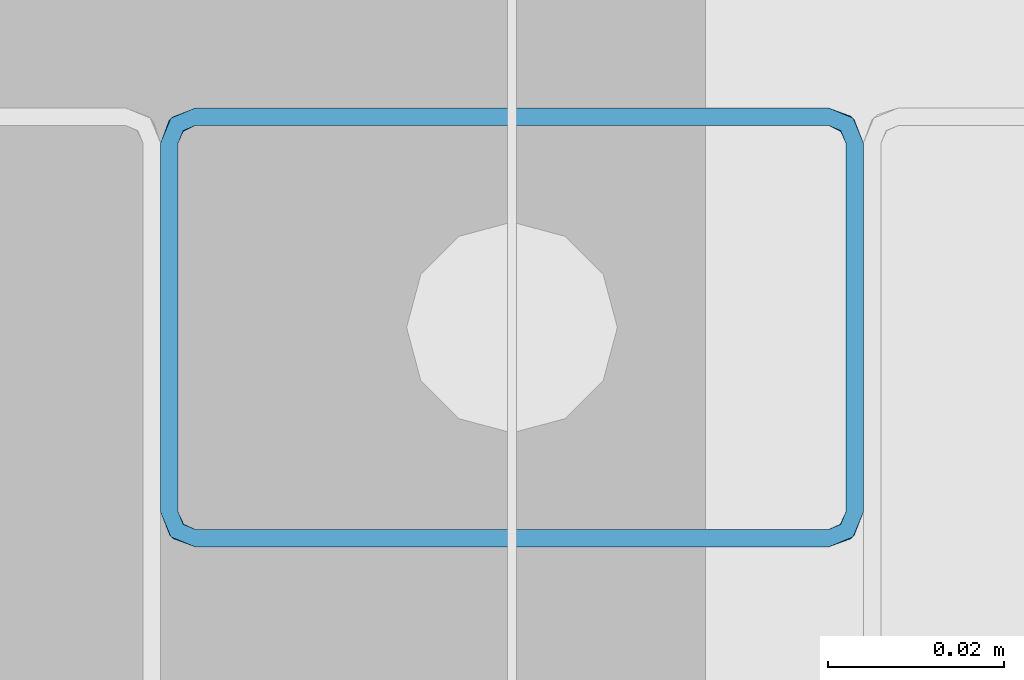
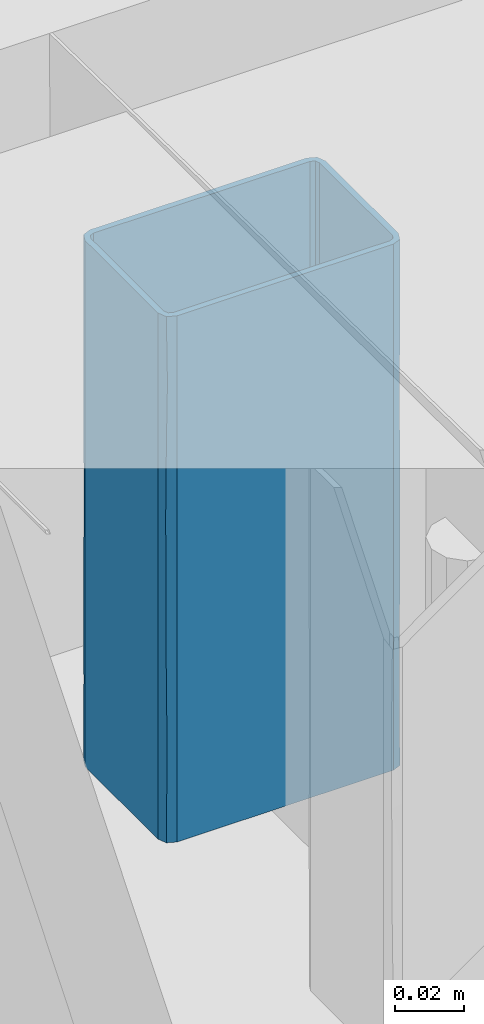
# One storey, part 135 of 186: 1 beam.
"""IFC4X3_ADD2 building model written with IfcOpenShell, lengths in millimetres."""

from ifc_helpers import new_model, si_unit, direction, frame, origin_with_axes, place, context, subcontext, project, spatial, polygons, element, save


model = new_model("IFC4X3_ADD2")

# Units and contexts
model_context = context("Model", 3, precision=1e-05, world=origin_with_axes(), true_north=direction((0.0, 1.0)))
body_context = subcontext(model_context, "Body", "Model", "MODEL_VIEW")
ifc_project = project(units=[si_unit("LENGTHUNIT", "METRE", prefix="MILLI"), si_unit("AREAUNIT", "SQUARE_METRE"), si_unit("VOLUMEUNIT", "CUBIC_METRE"), si_unit("PLANEANGLEUNIT", "RADIAN"), si_unit("TIMEUNIT", "SECOND"), si_unit("MASSUNIT", "GRAM")], contexts=[model_context])

# Site, building, storey
site_placement = place(None, origin_with_axes())
site = spatial("IfcSite", under=ifc_project, at=site_placement, Name="Site", CompositionType="ELEMENT")
building_placement = place(site_placement, origin_with_axes())
building = spatial("IfcBuilding", under=site, at=building_placement, Name="IFC Building Story")
storey_placement = place(building_placement, frame((0.0, 0.0, 4370.0), z_axis=(0.0, 0.0, 1.0), x_axis=(1.0, 0.0, 0.0)))
storey = spatial("IfcBuildingStorey", under=building, at=storey_placement, Name="ETAGE 10 (1)", Elevation=4370.0)

# Beam
beam_placement = place(storey_placement, frame((0.0, 0.0, -4370.0), z_axis=(0.0, 0.0, 1.0), x_axis=(1.0, 0.0, 0.0)))
element("IfcBeam", 1, at=beam_placement, inside=storey, Name="PS9", ObjectType="K50*80*2", context=body_context, shape_type="Tessellation", body=[
    polygons([(33389.18800000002, -14270.99999999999, 7549.598981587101), (33391.18800000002, -14270.99999999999, 7549.598981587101), (33388.60221356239, -14272.41421356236, 7549.598981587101), (33389.18800000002, -14228.99999999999, 7549.598981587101), (33391.18800000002, -14228.99999999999, 7549.598981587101), (33388.60221356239, -14227.58578643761, 7549.598981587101), (33390.01642712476, -14226.17157287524, 7549.598981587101), (33387.18800000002, -14224.99999999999, 7549.598981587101), (33387.18800000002, -14226.99999999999, 7549.598981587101), (33315.18800000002, -14224.99999999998, 7549.598981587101), (33315.18800000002, -14226.99999999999, 7549.598981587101), (33313.77378643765, -14227.58578643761, 7549.598981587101), (33312.35957287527, -14226.17157287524, 7549.598981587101), (33311.18800000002, -14228.99999999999, 7549.598981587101), (33313.18800000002, -14228.99999999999, 7549.598981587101), (33311.18800000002, -14270.99999999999, 7549.598981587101), (33313.18800000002, -14270.99999999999, 7549.598981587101), (33313.77378643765, -14272.41421356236, 7549.598981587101), (33312.35957287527, -14273.82842712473, 7549.598981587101), (33315.18800000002, -14274.99999999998, 7549.598981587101), (33315.18800000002, -14272.99999999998, 7549.598981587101), (33387.18800000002, -14272.99999999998, 7549.598981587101), (33387.18800000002, -14274.99999999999, 7549.598981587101), (33390.01642712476, -14273.82842712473, 7549.598981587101), (33313.18800000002, -14270.99999999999, 7734.598981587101), (33311.18800000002, -14270.99999999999, 7734.598981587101), (33313.77378643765, -14272.41421356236, 7734.598981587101), (33313.18800000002, -14228.99999999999, 7734.598981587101), (33311.18800000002, -14228.99999999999, 7734.598981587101), (33313.77378643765, -14227.58578643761, 7734.598981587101), (33312.35957287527, -14226.17157287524, 7734.598981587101), (33315.18800000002, -14224.99999999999, 7734.598981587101), (33315.18800000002, -14226.99999999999, 7734.598981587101), (33387.18800000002, -14224.99999999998, 7734.598981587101), (33387.18800000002, -14226.99999999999, 7734.598981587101), (33388.60221356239, -14227.58578643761, 7734.598981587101), (33390.01642712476, -14226.17157287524, 7734.598981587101), (33391.18800000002, -14228.99999999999, 7734.598981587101), (33389.18800000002, -14228.99999999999, 7734.598981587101), (33391.18800000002, -14270.99999999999, 7734.598981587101), (33389.18800000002, -14270.99999999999, 7734.598981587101), (33388.60221356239, -14272.41421356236, 7734.598981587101), (33390.01642712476, -14273.82842712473, 7734.598981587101), (33387.18800000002, -14274.99999999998, 7734.598981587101), (33387.18800000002, -14272.99999999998, 7734.598981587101), (33315.18800000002, -14272.99999999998, 7734.598981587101), (33315.18800000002, -14274.99999999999, 7734.598981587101), (33312.35957287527, -14273.82842712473, 7734.598981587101), (33315.18800000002, -14224.99999999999, 7567.057500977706), (33315.18800000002, -14224.99999999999, 7595.848981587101), (33315.18800000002, -14224.99999999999, 7618.973979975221), (33315.18800000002, -14224.99999999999, 7642.098981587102), (33315.18800000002, -14224.99999999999, 7665.22398319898), (33315.18800000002, -14224.99999999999, 7688.348981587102), (33315.18800000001, -14224.99999999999, 7717.140462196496), (33387.18800000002, -14224.99999999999, 7699.681936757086), (33387.18800000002, -14224.99999999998, 7677.016027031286), (33387.18800000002, -14224.99999999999, 7648.224549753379), (33387.18800000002, -14224.99999999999, 7619.433072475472), (33387.18800000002, -14224.99999999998, 7584.516026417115), (33389.87013952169, -14226.03248798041, 7688.348979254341), (33391.18800000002, -14228.99999999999, 7717.140460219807), (33391.18800000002, -14228.99999999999, 7567.057505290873), (33390.13632995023, -14226.29678885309, 7578.945875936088), (33390.12976139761, -14226.28964211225, 7653.661479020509), (33391.18800000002, -14228.99999999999, 7665.223981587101), (33390.12985629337, -14226.28974511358, 7628.466971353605), (33389.76734546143, -14225.94271738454, 7711.526446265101), (33391.18800000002, -14228.99999999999, 7688.348981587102), (33389.75682180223, -14225.93386977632, 7602.891747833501), (33391.18800000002, -14228.99999999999, 7642.098981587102), (33391.18800000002, -14228.99999999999, 7618.9739815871), (33391.18800000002, -14228.99999999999, 7595.848981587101), (33391.18800000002, -14270.99999999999, 7717.140458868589), (33391.18800000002, -14270.99999999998, 7688.348981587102), (33391.18800000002, -14270.99999999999, 7665.223981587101), (33391.18800000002, -14270.99999999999, 7642.098981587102), (33391.18800000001, -14270.99999999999, 7618.9739815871), (33391.18800000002, -14270.99999999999, 7595.848981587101), (33391.18800000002, -14270.99999999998, 7567.057504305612), (33390.13633021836, -14273.70321085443, 7705.252077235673), (33389.76734551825, -14274.05728256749, 7572.671514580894), (33389.87013952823, -14273.96751201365, 7595.848979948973), (33387.18800000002, -14274.99999999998, 7584.516027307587), (33387.18800000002, -14274.99999999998, 7607.181936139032), (33390.12976137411, -14273.71035791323, 7630.536479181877), (33387.18800000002, -14274.99999999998, 7699.681935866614), (33389.75682193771, -14274.06613011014, 7681.306206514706), (33390.12985619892, -14273.71025498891, 7655.73098495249), (33387.18800000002, -14274.99999999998, 7664.764890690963), (33387.18800000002, -14274.99999999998, 7635.973413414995), (33315.18800000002, -14274.99999999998, 7699.681936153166), (33315.18800000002, -14274.99999999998, 7670.890458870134), (33315.18800000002, -14274.99999999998, 7642.098981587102), (33315.18800000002, -14274.99999999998, 7618.973981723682), (33315.18800000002, -14274.99999999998, 7595.848981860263), (33315.18800000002, -14274.99999999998, 7567.057504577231), (33311.18800000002, -14270.99999999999, 7584.516027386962), (33311.18800000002, -14270.99999999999, 7619.433073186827), (33312.34756484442, -14273.81636789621, 7607.411479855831), (33311.18800000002, -14270.99999999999, 7699.681935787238), (33312.35957299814, -14273.8284272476, 7688.348976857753), (33312.59986179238, -14274.04984272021, 7711.473977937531), (33312.5361167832, -14273.99458100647, 7583.376471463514), (33312.22049317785, -14273.68214527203, 7663.470051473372), (33312.2957334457, -14273.76311313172, 7640.418718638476), (33311.18800000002, -14270.99999999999, 7677.01602659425), (33311.18800000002, -14270.99999999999, 7648.224549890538), (33311.18800000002, -14228.99999999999, 7699.681936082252), (33311.18800000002, -14228.99999999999, 7677.016027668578), (33311.18800000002, -14228.99999999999, 7648.224550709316), (33311.18800000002, -14228.99999999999, 7619.433072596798), (33311.18800000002, -14228.99999999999, 7584.516027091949), (33312.22048794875, -14226.31786051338, 7688.348978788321), (33312.48478884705, -14226.05167005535, 7578.945875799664), (33312.47764210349, -14226.05823861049, 7653.661478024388), (33312.47774509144, -14226.05814372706, 7628.466970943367), (33312.13071738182, -14226.42065454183, 7711.526445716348), (33312.12186975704, -14226.43117822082, 7602.891747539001), (33313.82800168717, -14227.53357421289, 7625.929039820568), (33313.18800000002, -14228.99999999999, 7623.66922028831), (33313.8731783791, -14227.49293526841, 7613.583468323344), (33313.60929313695, -14227.77212189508, 7664.531819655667), (33313.71072133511, -14227.65179832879, 7653.749277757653), (33315.18800000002, -14226.99999999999, 7665.223981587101), (33313.82800170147, -14227.53357419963, 7693.738959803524), (33313.18800000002, -14228.99999999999, 7702.259100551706), (33313.18800000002, -14228.99999999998, 7691.479140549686), (33313.18800000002, -14228.99999999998, 7680.699180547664), (33313.70109668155, -14227.6624206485, 7641.817961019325), (33315.18800000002, -14226.99999999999, 7642.098981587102), (33315.18800000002, -14226.99999999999, 7722.253941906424), (33313.7737864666, -14227.58578640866, 7717.646499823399), (33315.18800000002, -14226.99999999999, 7709.90890222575), (33313.78242951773, -14227.57719586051, 7705.830626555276), (33313.18800000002, -14228.99999999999, 7722.25394171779), (33313.18800000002, -14228.99999999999, 7561.94402094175), (33313.77378641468, -14227.58578646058, 7568.11654096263), (33315.18800000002, -14226.99999999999, 7561.944021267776), (33313.18800000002, -14228.99999999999, 7636.014260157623), (33313.18800000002, -14228.99999999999, 7586.634100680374), (33313.72736652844, -14227.63378264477, 7580.461580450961), (33313.77378639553, -14227.58578647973, 7592.806619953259), (33313.71533825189, -14227.64675671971, 7675.309197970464), (33315.18800000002, -14226.99999999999, 7688.348981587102), (33313.18800000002, -14228.99999999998, 7598.979140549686), (33313.18800000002, -14228.99999999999, 7574.289060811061), (33315.18800000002, -14226.99999999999, 7586.63410062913), (33315.18800000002, -14226.99999999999, 7574.289060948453), (33313.18800000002, -14228.99999999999, 7713.039061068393), (33315.18800000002, -14226.99999999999, 7699.128941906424), (33313.18800000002, -14228.99999999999, 7659.139259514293), (33313.18800000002, -14228.99999999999, 7648.359299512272), (33313.18800000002, -14228.99999999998, 7669.919220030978), (33315.18800000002, -14226.99999999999, 7653.661481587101), (33315.18800000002, -14226.99999999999, 7631.319021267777), (33315.18800000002, -14226.99999999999, 7676.786481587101), (33315.18800000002, -14226.99999999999, 7620.539060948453), (33313.18800000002, -14228.99999999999, 7611.324180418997), (33313.63244519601, -14227.74292034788, 7603.287688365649), (33315.18800000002, -14226.99999999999, 7609.759100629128), (33315.18800000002, -14226.99999999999, 7598.979140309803), (33313.18800000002, -14270.99999999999, 7722.253941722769), (33313.18800000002, -14270.99999999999, 7709.908901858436), (33313.18800000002, -14270.99999999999, 7699.128941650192), (33313.18800000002, -14270.99999999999, 7688.348981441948), (33313.18800000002, -14270.99999999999, 7676.786481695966), (33313.18800000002, -14270.99999999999, 7665.223981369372), (33313.18800000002, -14270.99999999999, 7653.661481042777), (33313.18800000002, -14270.99999999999, 7642.098981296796), (33313.18800000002, -14270.99999999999, 7630.536481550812), (33313.18800000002, -14270.99999999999, 7618.973981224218), (33313.18800000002, -14270.99999999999, 7607.411480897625), (33313.18800000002, -14270.99999999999, 7595.848981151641), (33313.18800000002, -14270.99999999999, 7585.069020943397), (33313.18800000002, -14270.99999999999, 7574.289060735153), (33313.18800000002, -14270.99999999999, 7561.944021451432), (33313.70396062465, -14272.3407561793, 7659.44273014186), (33313.66385584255, -14272.29498439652, 7647.880618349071), (33313.87324681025, -14272.50712443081, 7621.237918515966), (33313.70196043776, -14272.33853891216, 7636.317730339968), (33315.18800000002, -14272.99999999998, 7625.058702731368), (33315.18800000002, -14272.99999999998, 7561.944020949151), (33313.77378644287, -14272.41421356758, 7566.551461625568), (33315.18800000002, -14272.99999999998, 7571.158902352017), (33313.72157418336, -14272.35999828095, 7579.67904054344), (33313.699419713, -14272.33571281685, 7694.823087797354), (33313.71634898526, -14272.35434238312, 7682.567730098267), (33315.18800000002, -14272.99999999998, 7648.18370400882), (33313.73351716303, -14272.37276351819, 7591.347273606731), (33315.18800000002, -14272.99999999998, 7581.938862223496), (33315.18800000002, -14272.99999999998, 7722.25394222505), (33315.18800000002, -14272.99999999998, 7685.218823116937), (33313.77378642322, -14272.41421354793, 7716.08142123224), (33315.18800000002, -14272.99999999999, 7709.908901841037), (33315.18800000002, -14272.99999999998, 7672.873782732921), (33313.66429696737, -14272.29550340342, 7671.008022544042), (33315.18800000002, -14272.99999999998, 7660.528743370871), (33313.83475669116, -14272.47266172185, 7608.888762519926), (33315.18800000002, -14272.99999999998, 7614.278742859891), (33315.18800000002, -14272.99999999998, 7603.498782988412), (33315.18800000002, -14272.99999999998, 7592.718822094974), (33315.18800000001, -14272.99999999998, 7697.563862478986), (33313.91815055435, -14272.54514801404, 7705.388109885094), (33315.18800000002, -14272.99999999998, 7635.838663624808), (33387.18800000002, -14272.99999999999, 7722.253942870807), (33387.18800000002, -14272.99999999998, 7711.473981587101), (33387.18800000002, -14272.99999999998, 7699.9114815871), (33387.18800000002, -14272.99999999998, 7688.348981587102), (33387.18800000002, -14272.99999999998, 7676.786481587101), (33387.18800000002, -14272.99999999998, 7665.223981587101), (33387.18800000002, -14272.99999999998, 7653.661481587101), (33387.18800000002, -14272.99999999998, 7642.098981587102), (33387.18800000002, -14272.99999999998, 7630.536481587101), (33387.18800000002, -14272.99999999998, 7618.9739815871), (33387.18800000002, -14272.99999999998, 7607.411481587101), (33387.18800000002, -14272.99999999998, 7595.848981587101), (33387.18800000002, -14272.99999999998, 7585.069020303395), (33387.18800000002, -14272.99999999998, 7574.289060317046), (33387.18800000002, -14272.99999999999, 7561.944020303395), (33388.52875615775, -14272.48403939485, 7659.442730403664), (33388.48298437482, -14272.52414417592, 7647.880618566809), (33388.69512441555, -14272.31475320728, 7621.237918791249), (33388.52653889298, -14272.48603957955, 7636.317730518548), (33389.18800000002, -14270.99999999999, 7625.058703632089), (33388.47419377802, -14272.53156964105, 7705.518256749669), (33389.18800000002, -14270.99999999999, 7561.944022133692), (33388.60221356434, -14272.41421356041, 7566.551461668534), (33389.18800000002, -14270.99999999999, 7571.158902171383), (33389.18800000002, -14270.99999999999, 7722.253942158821), (33388.5479982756, -14272.46642582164, 7579.679040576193), (33389.18800000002, -14270.99999999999, 7685.218822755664), (33388.55331837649, -14272.46147382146, 7694.130230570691), (33389.18800000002, -14270.99999999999, 7697.563862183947), (33388.67361845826, -14272.33900627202, 7679.046301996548), (33388.56076351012, -14272.45448284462, 7591.347273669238), (33389.18800000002, -14270.99999999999, 7581.938862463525), (33389.18800000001, -14270.99999999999, 7709.908902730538), (33388.60221354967, -14272.41421357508, 7716.86396120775), (33389.18800000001, -14270.99999999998, 7648.183703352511), (33389.18800000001, -14270.99999999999, 7672.873783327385), (33389.18800000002, -14270.99999999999, 7660.528742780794), (33388.66066170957, -14272.35324332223, 7608.888762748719), (33389.18800000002, -14270.99999999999, 7614.278743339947), (33389.18800000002, -14270.99999999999, 7603.498783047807), (33389.18800000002, -14270.99999999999, 7592.718822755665), (33389.18800000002, -14270.99999999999, 7635.838663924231), (33389.18800000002, -14228.99999999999, 7722.253941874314), (33389.18800000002, -14228.99999999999, 7709.908902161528), (33389.18800000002, -14228.99999999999, 7697.563862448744), (33389.18800000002, -14228.99999999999, 7685.218822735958), (33389.18800000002, -14228.99999999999, 7672.873783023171), (33389.18800000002, -14228.99999999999, 7660.528743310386), (33389.18800000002, -14228.99999999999, 7648.183703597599), (33389.18800000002, -14228.99999999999, 7635.838663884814), (33389.18800000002, -14228.99999999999, 7625.0587035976), (33389.18800000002, -14228.99999999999, 7614.278743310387), (33389.18800000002, -14228.99999999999, 7603.498783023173), (33389.18800000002, -14228.99999999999, 7592.718822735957), (33389.18800000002, -14228.99999999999, 7581.938862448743), (33389.18800000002, -14228.99999999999, 7571.158902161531), (33389.18800000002, -14228.99999999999, 7561.944021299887), (33388.76670674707, -14227.77212174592, 7619.666140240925), (33388.66527859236, -14227.65179824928, 7630.448682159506), (33387.18800000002, -14226.99999999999, 7618.973981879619), (33388.54799824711, -14227.5335741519, 7658.268919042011), (33388.50282159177, -14227.49293524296, 7670.614489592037), (33388.60221360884, -14227.58578648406, 7716.081418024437), (33388.60221362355, -14227.58578649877, 7702.876051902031), (33387.18800000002, -14226.99999999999, 7709.908902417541), (33387.18800000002, -14226.99999999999, 7642.098981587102), (33388.67490326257, -14227.66242058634, 7642.379998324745), (33388.54799825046, -14227.53357415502, 7590.459000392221), (33388.59357048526, -14227.57719586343, 7578.367333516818), (33387.18800000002, -14226.99999999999, 7574.289060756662), (33388.60221356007, -14227.58578643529, 7566.551461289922), (33388.6606616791, -14227.64675664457, 7608.888761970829), (33387.18800000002, -14226.99999999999, 7595.848981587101), (33387.18800000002, -14226.99999999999, 7697.563862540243), (33388.60221352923, -14227.58578640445, 7690.510053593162), (33387.18800000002, -14226.99999999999, 7722.253941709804), (33387.18800000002, -14226.99999999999, 7561.944021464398), (33387.18800000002, -14226.99999999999, 7585.069021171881), (33387.18800000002, -14226.99999999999, 7630.536482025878), (33387.18800000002, -14226.99999999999, 7652.878942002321), (33387.18800000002, -14226.99999999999, 7607.41148173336), (33387.18800000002, -14226.99999999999, 7663.658901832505), (33387.18800000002, -14226.99999999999, 7674.438862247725), (33387.18800000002, -14226.99999999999, 7685.218822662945)], [[[1, 2, 3]], [[2, 1, 4]], [[4, 5, 2]], [[6, 5, 4]], [[7, 5, 6]], [[6, 8, 7]], [[6, 9, 8]], [[8, 9, 10]], [[11, 10, 9]], [[11, 12, 10]], [[10, 12, 13]], [[14, 13, 12]], [[14, 12, 15]], [[14, 15, 16]], [[17, 16, 15]], [[18, 16, 17]], [[16, 18, 19]], [[18, 20, 19]], [[21, 20, 18]], [[20, 21, 22]], [[3, 23, 22]], [[22, 23, 20]], [[3, 2, 24]], [[23, 3, 24]], [[25, 26, 27]], [[26, 25, 28]], [[28, 29, 26]], [[30, 29, 28]], [[31, 29, 30]], [[30, 32, 31]], [[30, 33, 32]], [[32, 33, 34]], [[35, 34, 33]], [[35, 36, 34]], [[34, 36, 37]], [[38, 37, 36]], [[38, 36, 39]], [[38, 39, 40]], [[41, 40, 39]], [[42, 40, 41]], [[40, 42, 43]], [[42, 44, 43]], [[45, 44, 42]], [[44, 45, 46]], [[27, 47, 46]], [[46, 47, 44]], [[27, 26, 48]], [[47, 27, 48]], [[55, 32, 34]], [[56, 57, 54]], [[54, 55, 34]], [[54, 34, 56]], [[57, 53, 54]], [[57, 58, 52]], [[57, 52, 53]], [[58, 59, 51]], [[58, 51, 52]], [[59, 60, 50]], [[59, 50, 51]], [[60, 8, 49]], [[60, 49, 50]], [[8, 10, 49]], [[61, 57, 56]], [[37, 38, 62]], [[63, 5, 7]], [[7, 8, 64]], [[61, 65, 57]], [[66, 65, 61]], [[67, 59, 58]], [[61, 68, 69]], [[61, 56, 68]], [[8, 60, 64]], [[67, 70, 59]], [[34, 37, 68]], [[64, 60, 70]], [[68, 62, 69]], [[58, 65, 67]], [[65, 66, 71]], [[61, 69, 66]], [[65, 71, 67]], [[57, 65, 58]], [[70, 72, 73]], [[72, 70, 67]], [[64, 73, 63]], [[60, 59, 70]], [[34, 68, 56]], [[62, 68, 37]], [[67, 71, 72]], [[73, 64, 70]], [[7, 64, 63]], [[62, 38, 40]], [[62, 40, 74]], [[74, 75, 69]], [[74, 69, 62]], [[75, 76, 66]], [[75, 66, 69]], [[76, 77, 71]], [[76, 71, 66]], [[77, 78, 72]], [[77, 72, 71]], [[78, 79, 73]], [[78, 73, 72]], [[79, 80, 63]], [[79, 63, 73]], [[80, 2, 5]], [[80, 5, 63]], [[43, 44, 81]], [[82, 79, 83]], [[84, 83, 85]], [[82, 80, 79]], [[83, 86, 85]], [[24, 2, 80]], [[74, 40, 43]], [[78, 86, 83]], [[81, 44, 87]], [[87, 88, 81]], [[89, 90, 91]], [[89, 88, 90]], [[23, 24, 82]], [[83, 84, 82]], [[91, 86, 89]], [[86, 78, 77]], [[83, 79, 78]], [[86, 77, 89]], [[85, 86, 91]], [[88, 76, 75]], [[76, 88, 89]], [[81, 75, 74]], [[87, 90, 88]], [[23, 82, 84]], [[80, 82, 24]], [[89, 77, 76]], [[75, 81, 88]], [[43, 81, 74]], [[87, 44, 47]], [[87, 47, 92]], [[92, 93, 90]], [[92, 90, 87]], [[93, 94, 91]], [[93, 91, 90]], [[95, 96, 85]], [[85, 91, 94]], [[85, 94, 95]], [[96, 84, 85]], [[97, 20, 23]], [[97, 23, 84]], [[84, 96, 97]], [[98, 16, 19]], [[99, 98, 100]], [[101, 102, 103]], [[19, 97, 104]], [[48, 103, 47]], [[94, 105, 106]], [[93, 102, 105]], [[96, 100, 104]], [[105, 102, 107]], [[26, 101, 103]], [[100, 106, 99]], [[19, 20, 97]], [[101, 107, 102]], [[105, 94, 93]], [[103, 102, 92]], [[93, 92, 102]], [[107, 108, 105]], [[105, 108, 106]], [[47, 103, 92]], [[103, 48, 26]], [[108, 99, 106]], [[96, 95, 100]], [[100, 95, 106]], [[95, 94, 106]], [[104, 100, 98]], [[19, 104, 98]], [[97, 96, 104]], [[101, 26, 29]], [[101, 29, 109]], [[109, 110, 107]], [[109, 107, 101]], [[110, 111, 108]], [[110, 108, 107]], [[111, 112, 99]], [[111, 99, 108]], [[112, 113, 98]], [[112, 98, 99]], [[113, 14, 16]], [[113, 16, 98]], [[114, 110, 109]], [[31, 32, 55]], [[49, 10, 13]], [[13, 14, 115]], [[114, 116, 110]], [[53, 116, 114]], [[117, 112, 111]], [[114, 118, 54]], [[114, 109, 118]], [[14, 113, 115]], [[117, 119, 112]], [[29, 31, 118]], [[115, 113, 119]], [[118, 55, 54]], [[111, 116, 117]], [[116, 53, 52]], [[114, 54, 53]], [[116, 52, 117]], [[110, 116, 111]], [[119, 51, 50]], [[51, 119, 117]], [[115, 50, 49]], [[113, 112, 119]], [[29, 118, 109]], [[55, 118, 31]], [[117, 52, 51]], [[50, 115, 119]], [[13, 115, 49]], [[120, 121, 122]], [[123, 124, 125]], [[126, 127, 128, 129]], [[124, 130, 131]], [[132, 30, 133]], [[134, 133, 135]], [[30, 28, 136]], [[137, 15, 12]], [[138, 12, 139]], [[120, 130, 140]], [[141, 142, 143]], [[144, 145, 126]], [[141, 143, 146]], [[137, 138, 147]], [[148, 142, 149]], [[30, 136, 133]], [[150, 133, 136]], [[12, 11, 139]], [[132, 33, 30]], [[12, 138, 137]], [[133, 134, 132]], [[150, 127, 135]], [[135, 126, 151]], [[150, 135, 133]], [[151, 126, 145]], [[152, 153, 124]], [[129, 154, 144]], [[124, 131, 155, 125]], [[130, 120, 156]], [[144, 154, 123]], [[157, 145, 144, 125]], [[129, 144, 126]], [[152, 123, 154]], [[158, 120, 122]], [[142, 138, 149]], [[142, 141, 147]], [[149, 138, 139]], [[159, 122, 121]], [[153, 130, 124]], [[159, 160, 122]], [[156, 120, 158]], [[121, 120, 140]], [[143, 160, 146]], [[161, 158, 122]], [[143, 162, 160]], [[148, 162, 143]], [[143, 142, 148]], [[138, 142, 147]], [[144, 123, 125]], [[124, 123, 152]], [[134, 135, 151]], [[135, 127, 126]], [[146, 160, 159]], [[162, 161, 160]], [[161, 122, 160]], [[156, 131, 130]], [[140, 130, 153]], [[136, 28, 25]], [[136, 25, 163]], [[163, 164, 150]], [[163, 150, 136]], [[164, 165, 127]], [[164, 127, 150]], [[165, 166, 128]], [[165, 128, 127]], [[166, 167, 129]], [[166, 129, 128]], [[167, 168, 154]], [[167, 154, 129]], [[168, 169, 152]], [[168, 152, 154]], [[169, 153, 152]], [[170, 171, 140]], [[140, 153, 169]], [[140, 169, 170]], [[171, 172, 121]], [[171, 121, 140]], [[172, 173, 159]], [[172, 159, 121]], [[173, 174, 146]], [[173, 146, 159]], [[174, 175, 141]], [[174, 141, 146]], [[175, 176, 147]], [[175, 147, 141]], [[176, 177, 137]], [[176, 137, 147]], [[177, 17, 15]], [[177, 15, 137]], [[178, 179, 169]], [[180, 181, 182]], [[163, 25, 27]], [[18, 17, 177]], [[183, 184, 185]], [[176, 175, 186]], [[187, 188, 166]], [[166, 188, 167]], [[189, 179, 178]], [[190, 186, 175]], [[186, 190, 191]], [[183, 21, 18]], [[46, 192, 27]], [[187, 193, 188]], [[163, 194, 164]], [[195, 194, 192]], [[185, 186, 191]], [[27, 194, 163]], [[196, 197, 188]], [[169, 168, 178]], [[18, 177, 176, 184]], [[198, 189, 178]], [[18, 184, 183]], [[186, 185, 184]], [[199, 200, 201]], [[176, 186, 184]], [[202, 191, 190, 201]], [[27, 192, 194]], [[190, 199, 201]], [[179, 181, 170]], [[197, 196, 198]], [[178, 168, 197]], [[193, 196, 188]], [[197, 167, 188]], [[187, 203, 193]], [[195, 204, 194]], [[165, 164, 204]], [[180, 199, 172]], [[172, 199, 174, 173]], [[199, 190, 174]], [[180, 200, 199]], [[205, 182, 181, 189]], [[171, 181, 180]], [[204, 195, 203]], [[187, 165, 204]], [[170, 181, 171]], [[180, 172, 171]], [[169, 179, 170]], [[181, 179, 189]], [[167, 197, 168]], [[198, 178, 197]], [[182, 200, 180]], [[187, 166, 165]], [[194, 204, 164]], [[187, 204, 203]], [[174, 190, 175]], [[192, 46, 45]], [[192, 45, 206]], [[206, 207, 195]], [[206, 195, 192]], [[207, 208, 203]], [[207, 203, 195]], [[208, 209, 193]], [[208, 193, 203]], [[209, 210, 196]], [[209, 196, 193]], [[210, 211, 198]], [[210, 198, 196]], [[211, 212, 189]], [[211, 189, 198]], [[213, 214, 205]], [[213, 205, 189]], [[189, 212, 213]], [[214, 182, 205]], [[214, 215, 200]], [[214, 200, 182]], [[215, 216, 201]], [[215, 201, 200]], [[216, 217, 202]], [[216, 202, 201]], [[217, 218, 191]], [[217, 191, 202]], [[218, 219, 185]], [[218, 185, 191]], [[219, 220, 183]], [[219, 183, 185]], [[220, 22, 21]], [[220, 21, 183]], [[221, 222, 212]], [[223, 224, 225]], [[208, 207, 226]], [[227, 1, 3]], [[227, 3, 228]], [[228, 229, 227]], [[42, 41, 230]], [[219, 218, 231]], [[232, 233, 234]], [[233, 235, 209]], [[208, 233, 209]], [[236, 231, 218]], [[231, 236, 237]], [[238, 226, 239]], [[206, 239, 207]], [[208, 226, 233]], [[206, 45, 42]], [[220, 219, 228]], [[228, 3, 22]], [[228, 22, 220]], [[229, 231, 237]], [[42, 230, 239]], [[42, 239, 206]], [[239, 230, 238]], [[240, 222, 221]], [[221, 235, 241]], [[212, 211, 221]], [[242, 240, 221, 241]], [[231, 229, 228]], [[243, 244, 245]], [[219, 231, 228]], [[246, 237, 236, 245]], [[241, 235, 232]], [[238, 234, 226]], [[222, 224, 213]], [[210, 209, 235, 211]], [[235, 221, 211]], [[236, 243, 245]], [[223, 243, 215]], [[215, 243, 217, 216]], [[243, 236, 217]], [[223, 244, 243]], [[247, 225, 224, 240]], [[214, 224, 223]], [[213, 224, 214]], [[223, 215, 214]], [[232, 235, 233]], [[212, 222, 213]], [[224, 222, 240]], [[234, 233, 226]], [[239, 226, 207]], [[225, 244, 223]], [[217, 236, 218]], [[230, 41, 39]], [[230, 39, 248]], [[248, 249, 238]], [[248, 238, 230]], [[249, 250, 234]], [[249, 234, 238]], [[250, 251, 232]], [[250, 232, 234]], [[251, 252, 241]], [[251, 241, 232]], [[252, 253, 242]], [[252, 242, 241]], [[253, 254, 240]], [[253, 240, 242]], [[254, 255, 247]], [[254, 247, 240]], [[255, 256, 225]], [[255, 225, 247]], [[256, 257, 244]], [[256, 244, 225]], [[257, 258, 245]], [[257, 245, 244]], [[258, 259, 246]], [[258, 246, 245]], [[259, 260, 237]], [[259, 237, 246]], [[260, 261, 229]], [[260, 229, 237]], [[261, 262, 227]], [[261, 227, 229]], [[262, 4, 1]], [[262, 1, 227]], [[263, 264, 265]], [[266, 253, 267]], [[249, 248, 268]], [[269, 268, 270]], [[271, 264, 272]], [[273, 260, 259, 258]], [[261, 260, 274]], [[275, 276, 274]], [[266, 272, 254]], [[262, 261, 276]], [[276, 6, 4]], [[276, 4, 262]], [[248, 39, 36]], [[277, 278, 273]], [[269, 279, 280]], [[35, 281, 36]], [[282, 9, 6]], [[36, 268, 248]], [[282, 6, 276]], [[281, 270, 268]], [[282, 276, 275]], [[274, 273, 283]], [[261, 274, 276]], [[283, 273, 278]], [[256, 255, 264]], [[258, 257, 277]], [[264, 271, 284, 265]], [[272, 266, 285]], [[277, 257, 263]], [[286, 278, 277, 265]], [[258, 277, 273]], [[256, 263, 257]], [[36, 281, 268]], [[249, 268, 269]], [[252, 251, 267, 253]], [[255, 272, 264]], [[287, 266, 267]], [[285, 266, 287]], [[253, 266, 254]], [[250, 249, 269]], [[280, 250, 269]], [[288, 287, 267, 289]], [[280, 289, 267]], [[277, 263, 265]], [[251, 250, 280]], [[269, 270, 279]], [[264, 263, 256]], [[275, 274, 283]], [[274, 260, 273]], [[285, 271, 272]], [[254, 272, 255]], [[251, 280, 267]], [[289, 280, 279]], [[281, 35, 33]], [[281, 33, 132]], [[132, 134, 270]], [[132, 270, 281]], [[134, 151, 279]], [[134, 279, 270]], [[151, 145, 289]], [[151, 289, 279]], [[145, 157, 288]], [[145, 288, 289]], [[157, 125, 287]], [[157, 287, 288]], [[125, 155, 285]], [[125, 285, 287]], [[155, 131, 271]], [[155, 271, 285]], [[131, 156, 284]], [[131, 284, 271]], [[156, 158, 265]], [[156, 265, 284]], [[158, 161, 286]], [[158, 286, 265]], [[161, 162, 278]], [[161, 278, 286]], [[162, 148, 283]], [[162, 283, 278]], [[148, 149, 275]], [[148, 275, 283]], [[149, 139, 282]], [[149, 282, 275]], [[139, 11, 9]], [[139, 9, 282]]]),
])

save(model, "model.ifc")
